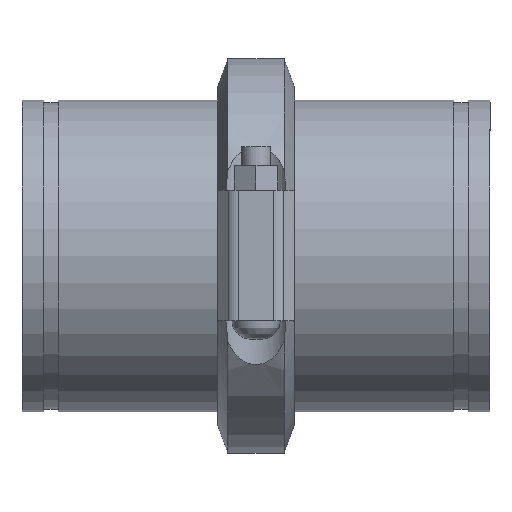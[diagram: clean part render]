
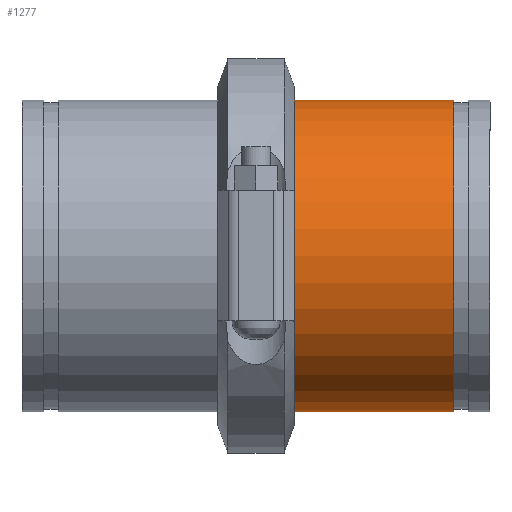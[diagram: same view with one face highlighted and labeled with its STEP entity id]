
A CAD part, top view. The second image highlights one B-rep face of the part: STEP entity #1277.
In plain terms, the highlighted cylindrical face has radius 136.525 mm (diameter 273.05 mm), a full revolution.
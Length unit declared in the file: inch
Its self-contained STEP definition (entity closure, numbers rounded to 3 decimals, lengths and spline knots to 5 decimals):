
#60=LINE('',#2003,#143);
#143=VECTOR('',#1632,5.375);
#226=CYLINDRICAL_SURFACE('',#1449,5.375);
#275=FACE_OUTER_BOUND('',#352,.T.);
#352=EDGE_LOOP('',(#837,#838,#839,#840,#841,#842));
#448=CIRCLE('',#1447,5.375);
#449=CIRCLE('',#1448,5.375);
#450=CIRCLE('',#1450,5.375);
#451=CIRCLE('',#1451,5.375);
#520=VERTEX_POINT('',#1994);
#521=VERTEX_POINT('',#1995);
#522=VERTEX_POINT('',#1999);
#523=VERTEX_POINT('',#2000);
#645=EDGE_CURVE('',#520,#521,#448,.T.);
#646=EDGE_CURVE('',#521,#520,#449,.T.);
#647=EDGE_CURVE('',#522,#523,#450,.T.);
#648=EDGE_CURVE('',#523,#522,#451,.T.);
#649=EDGE_CURVE('',#523,#521,#60,.T.);
#837=ORIENTED_EDGE('',*,*,#647,.F.);
#838=ORIENTED_EDGE('',*,*,#648,.F.);
#839=ORIENTED_EDGE('',*,*,#649,.T.);
#840=ORIENTED_EDGE('',*,*,#646,.T.);
#841=ORIENTED_EDGE('',*,*,#645,.T.);
#842=ORIENTED_EDGE('',*,*,#649,.F.);
#1277=ADVANCED_FACE('',(#275),#226,.T.);
#1447=AXIS2_PLACEMENT_3D('',#1996,#1622,#1623);
#1448=AXIS2_PLACEMENT_3D('',#1997,#1624,#1625);
#1449=AXIS2_PLACEMENT_3D('',#1998,#1626,#1627);
#1450=AXIS2_PLACEMENT_3D('',#2001,#1628,#1629);
#1451=AXIS2_PLACEMENT_3D('',#2002,#1630,#1631);
#1622=DIRECTION('center_axis',(-1.,0.,0.));
#1623=DIRECTION('ref_axis',(0.,0.,1.));
#1624=DIRECTION('center_axis',(-1.,0.,0.));
#1625=DIRECTION('ref_axis',(0.,0.,1.));
#1626=DIRECTION('center_axis',(-1.,0.,0.));
#1627=DIRECTION('ref_axis',(0.,1.,0.));
#1628=DIRECTION('center_axis',(-1.,0.,0.));
#1629=DIRECTION('ref_axis',(0.,0.,1.));
#1630=DIRECTION('center_axis',(-1.,0.,0.));
#1631=DIRECTION('ref_axis',(0.,0.,1.));
#1632=DIRECTION('',(1.,0.,0.));
#1994=CARTESIAN_POINT('',(2.75,5.375,0.));
#1995=CARTESIAN_POINT('',(2.75,-5.375,0.));
#1996=CARTESIAN_POINT('Origin',(2.75,0.,0.));
#1997=CARTESIAN_POINT('Origin',(2.75,0.,0.));
#1998=CARTESIAN_POINT('Origin',(0.,0.,
0.));
#1999=CARTESIAN_POINT('',(-2.75,5.375,0.));
#2000=CARTESIAN_POINT('',(-2.75,-5.375,0.));
#2001=CARTESIAN_POINT('Origin',(-2.75,0.,0.));
#2002=CARTESIAN_POINT('Origin',(-2.75,0.,0.));
#2003=CARTESIAN_POINT('',(0.,-5.375,0.));
